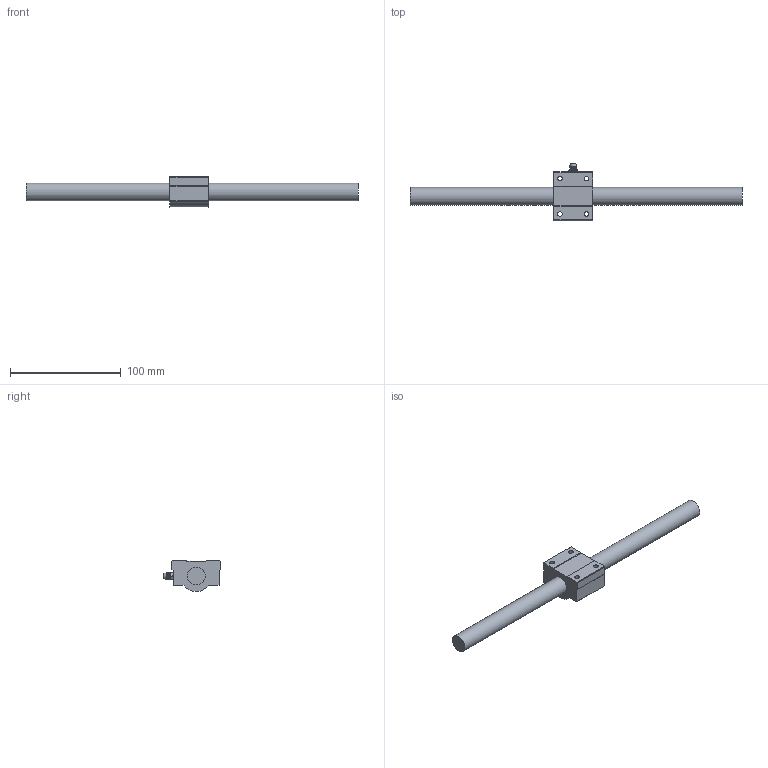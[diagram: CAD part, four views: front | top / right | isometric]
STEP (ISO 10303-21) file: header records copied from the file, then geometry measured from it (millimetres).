
FILE_DESCRIPTION((''),'2;1');
FILE_NAME('D:\製品 (図面)\カタログ用3D\ネジ関連\STEP形式\TMH\TMH16.stp','2010-06-02T15:17:07',('Tsuchiya'),(''),'Autodesk Inventor 10','Autodesk Inventor 10','');
FILE_SCHEMA(('AUTOMOTIVE_DESIGN { 1 0 10303 214 1 1 1 1 }'));
Length unit declared in the file: millimetre
Products named in the file (3): TMH16; TMH161; TMH162
Assembly tree (2 placements, depth 2):
  TMH16
    TMH161
    TMH162
Bounding box: 300 x 51.8 x 27.95 mm (x, y, z)
Volume: 88713.4 mm3; surface area: 24831.7 mm2
Topology: 2 solids, 2 shells, 61 faces, 144 edges, 91 vertices
Faces by surface type: plane 31, cone 13, bspline 8, cylinder 7, sphere 2
Full cylindrical faces by diameter (mm): 4 x2, 4.134 x2, 16 x2
Entity records: 1814 total; most frequent: CARTESIAN_POINT 470, DIRECTION 258, ORIENTED_EDGE 248, EDGE_CURVE 124, AXIS2_PLACEMENT_3D 100, EDGE_LOOP 92, VERTEX_POINT 88, FACE_OUTER_BOUND 61
